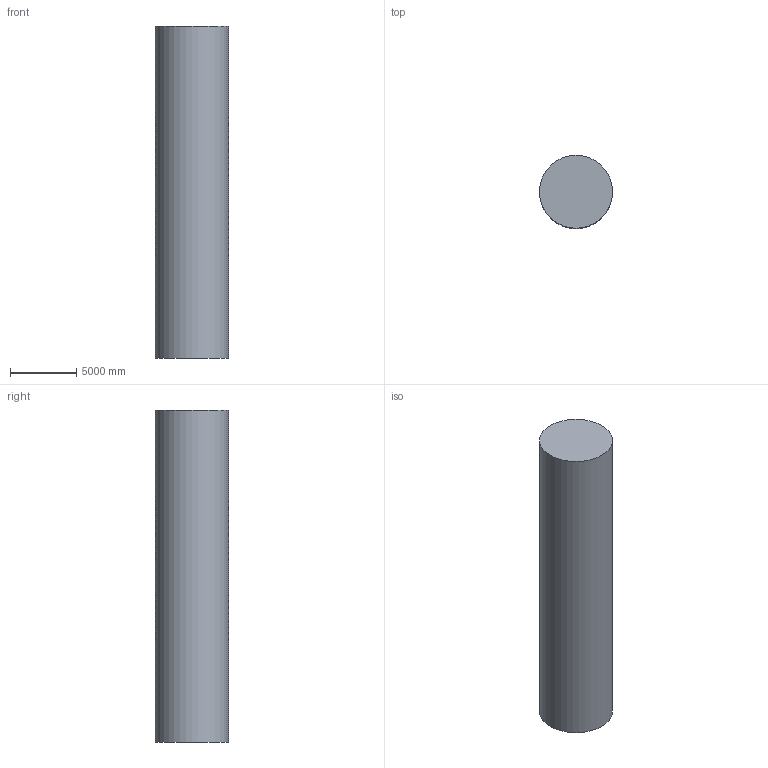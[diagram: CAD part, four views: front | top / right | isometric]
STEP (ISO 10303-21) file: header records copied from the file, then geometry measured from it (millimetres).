
FILE_DESCRIPTION(('Open CASCADE Model'),'2;1');
FILE_NAME('Open CASCADE Shape Model','2026-05-26T13:18:46',('Author'),( 'Open CASCADE'),'Open CASCADE STEP processor 7.8','build123d', 'Unknown');
FILE_SCHEMA(('AUTOMOTIVE_DESIGN { 1 0 10303 214 1 1 1 1 }'));
Length unit declared in the file: millimetre
Products named in the file (2): =>[0:1:1:2]; COMPOUND
Assembly tree (1 placements, depth 2):
  =>[0:1:1:2]
    COMPOUND
Bounding box: 5500 x 5500 x 25000 mm (x, y, z)
Volume: 593957361069.3 mm3; surface area: 479485578.8 mm2
Topology: 1 solids, 1 shells, 3 faces, 3 edges, 2 vertices
Faces by surface type: plane 2, cylinder 1
Full cylindrical faces by diameter (mm): 5500 x1
Entity records: 126 total; most frequent: DIRECTION 21, CARTESIAN_POINT 16, AXIS2_PLACEMENT_3D 7, ORIENTED_EDGE 6, PCURVE 6, DEFINITIONAL_REPRESENTATION 6, LINE 5, VECTOR 5
